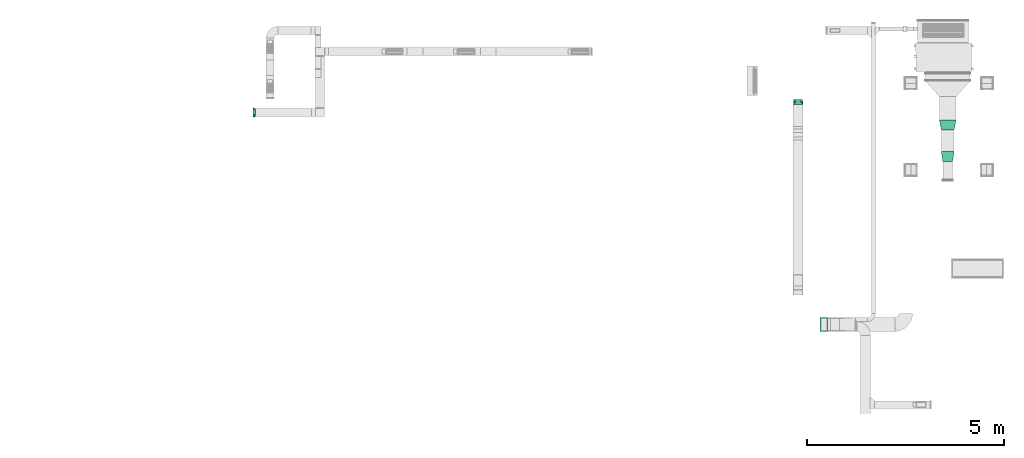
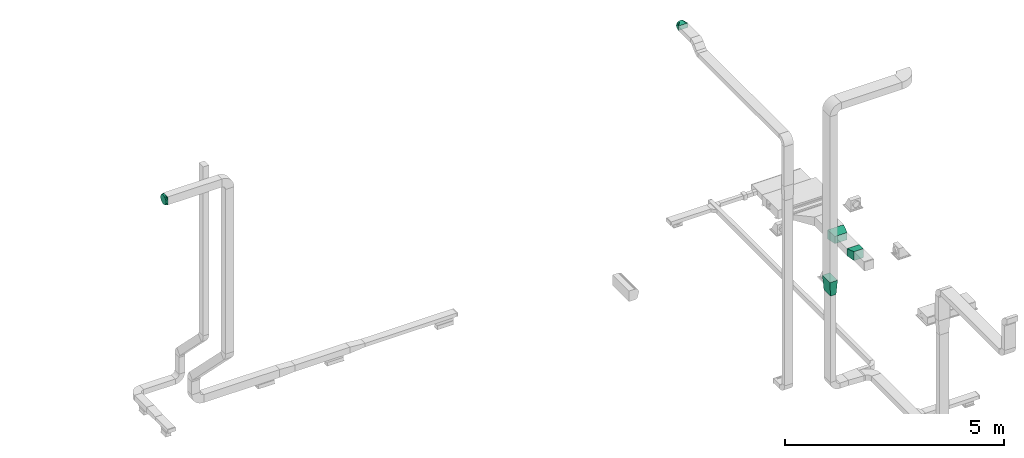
# One storey, part 17 of 22: 5 flow fittings.
"""IFC2X3 building model written with IfcOpenShell, lengths in millimetres."""

from ifc_helpers import new_model, entity, si_unit, converted_unit, derived_unit, direction, frame, origin, place, context, subcontext, project, spatial, faceted_brep, source, transform, mapped, material, type_object, type_shapes, element, save


model = new_model("IFC2X3")

# Units and contexts
model_context = context("Model", 3, precision=0.01, world=origin(), true_north=direction((6.123233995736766e-17, 1.0)))
body_context = subcontext(model_context, "Body", "Model", "MODEL_VIEW")
ifc_project = project(units=[si_unit("LENGTHUNIT", "METRE", prefix="MILLI"), converted_unit("PLANEANGLEUNIT", "DEGREE", entity("IfcPlaneAngleMeasure", 0.017453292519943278), si_unit("PLANEANGLEUNIT", "RADIAN"), dimensions=[0, 0, 0, 0, 0, 0, 0]), si_unit("AREAUNIT", "SQUARE_METRE"), derived_unit("THERMALTRANSMITTANCEUNIT", [(si_unit("MASSUNIT", "GRAM", prefix="KILO"), 1), (si_unit("THERMODYNAMICTEMPERATUREUNIT", "KELVIN"), -1), (si_unit("TIMEUNIT", "SECOND"), -3)])], contexts=[model_context])

# Site, building, storey
site_placement = place(None, origin())
site = spatial("IfcSite", under=ifc_project, at=site_placement, Name="Default", CompositionType="ELEMENT")
building_placement = place(site_placement, origin())
building = spatial("IfcBuilding", under=site, at=building_placement, Name="Praça Pedro II, 1301 - Centro (Sul), Teresina - PI, 64001-100", CompositionType="ELEMENT")
storey_placement = place(building_placement, frame((0.0, 0.0, 320.0)))
storey = spatial("IfcBuildingStorey", under=building, at=storey_placement, Name="TÉRREO +0.32m", CompositionType="ELEMENT", Elevation=319.99999999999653)

# Flow fittings
ifc_material = material(Name="<Unnamed>")
duct_fitting_type_1 = type_object("IfcDuctFittingType", Name="M_Rectangular Transition - L:400 mm (L)", PredefinedType="NOTDEFINED", material=ifc_material)
shared_shape_1 = source(origin(), body_context, "Body", "Brep", [
    faceted_brep([(400.0, -100.0, 175.0), (400.0, -100.0, -175.0), (400.0, 100.0, -175.0), (400.0, 100.0, 175.0), (0.0, -75.0, 150.0), (0.0, 75.0, 150.0), (0.0, 75.0, -150.0), (0.0, -75.0, -150.0)], [[[0, 1, 2, 3]], [[4, 5, 6, 7]], [[4, 7, 1, 0]], [[7, 6, 2, 1]], [[6, 5, 3, 2]], [[5, 4, 0, 3]]]),
])
type_shapes(duct_fitting_type_1, [shared_shape_1])
flow_fitting_1_placement = place(storey_placement, frame((34439.070668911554, -58985.15114948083, 4811.336223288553), z_axis=(0.0, -1.0, 0.0), x_axis=(0.0, 0.0, 1.0)))
element("IfcFlowFitting", 1, at=flow_fitting_1_placement, inside=storey, type_object=duct_fitting_type_1, material=ifc_material, Name="M_Rectangular Transition - L:400 mm (L)", ObjectType="M_Rectangular Transition - L:400 mm (L)", context=body_context, shape_type="MappedRepresentation", body=[
    mapped(shared_shape_1, transform((0.0, 0.0, 0.0), scale=1.0)),
])
duct_fitting_type_2 = type_object("IfcDuctFittingType", Name="M_Transição retangular para oval - Ângulo:45 Graus", PredefinedType="NOTDEFINED", material=ifc_material)
shared_shape_2 = source(origin(), body_context, "Body", "Brep", [
    faceted_brep([(119.50357133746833, -65.83194825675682, -90.60990336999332), (119.50357133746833, -50.22092581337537, -98.56411659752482), (119.50357133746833, -34.60990336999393, -106.51832982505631), (119.50357133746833, -21.364137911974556, -108.61625297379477), (119.50357133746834, -10.682068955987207, -110.30812648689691), (119.50357133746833, -5.341034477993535, -111.15406324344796), (119.50357133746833, 0.0, -112.0), (119.50357133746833, 5.341034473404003, -111.15406324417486), (119.50357133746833, 10.682068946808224, -110.30812648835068), (119.50357133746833, 21.36413789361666, -108.61625297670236), (119.50357133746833, 34.60990336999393, -106.5183298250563), (119.50357133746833, 50.2209258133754, -98.56411659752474), (119.50357133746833, 65.83194825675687, -90.60990336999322), (119.50357133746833, 78.22092581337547, -78.22092581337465), (119.50357133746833, 90.60990336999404, -65.83194825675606), (119.50357133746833, 98.56411659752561, -50.22092581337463), (119.50357133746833, 106.51832982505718, -34.60990336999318), (119.50357133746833, 108.61625297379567, -21.364137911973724), (119.50357133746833, 110.30812648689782, -10.68206895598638), (119.50357133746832, 111.15406324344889, -5.341034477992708), (119.50357133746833, 112.0, 0.0), (119.50357133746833, 111.15406324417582, 5.341034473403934), (119.50357133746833, 110.30812648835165, 10.682068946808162), (119.50357133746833, 108.61625297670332, 21.364137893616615), (119.50357133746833, 106.51832982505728, 34.60990336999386), (119.50357133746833, 98.56411659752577, 50.220925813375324), (119.50357133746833, 90.60990336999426, 65.83194825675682), (119.50357133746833, 78.22092581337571, 78.22092581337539), (119.50357133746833, 65.83194825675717, 90.60990336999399), (119.50357133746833, 50.22092581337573, 98.56411659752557), (119.50357133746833, 34.6099033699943, 106.51832982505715), (119.50357133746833, 21.364137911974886, 108.61625297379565), (119.50357133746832, 10.682068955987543, 110.30812648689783), (119.50357133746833, 5.341034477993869, 111.15406324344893), (119.50357133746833, 0.0, 112.0), (119.50357133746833, -5.34103447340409, 111.1540632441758), (119.50357133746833, -10.682068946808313, 110.30812648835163), (119.50357133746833, -21.364137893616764, 108.61625297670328), (119.50357133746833, -34.60990336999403, 106.51832982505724), (119.50357133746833, -50.2209258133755, 98.5641165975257), (119.50357133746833, -65.83194825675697, 90.60990336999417), (119.50357133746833, -78.22092581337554, 78.22092581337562), (119.50357133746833, -90.60990336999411, 65.83194825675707), (119.50357133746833, -98.56411659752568, 50.220925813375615), (119.50357133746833, -106.51832982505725, 34.60990336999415), (119.50357133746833, -108.61625297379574, 21.3641379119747), (119.50357133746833, -110.3081264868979, 10.682068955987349), (119.50357133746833, -111.15406324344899, 5.341034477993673), (119.50357133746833, -112.0, 0.0), (119.50357133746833, -111.15406324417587, -5.341034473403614), (119.50357133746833, -110.30812648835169, -10.68206894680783), (119.50357133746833, -108.61625297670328, -21.36413789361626), (119.50357133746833, -106.51832982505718, -34.60990336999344), (119.50357133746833, -98.5641165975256, -50.22092581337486), (119.50357133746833, -90.609903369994, -65.83194825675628), (119.50357133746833, -78.2209258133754, -78.22092581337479), (0.0, -125.0, 62.50000000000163), (0.0, 125.0, 62.50000000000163), (0.0, 125.0, -62.50000000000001), (0.0, -125.0, -62.50000000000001), (62.210109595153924, -59.92860830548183, 88.26827111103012), (59.75178535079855, -99.62868787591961, 73.17207702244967), (15.552527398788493, -108.73215207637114, 68.94206777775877), (46.65758219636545, -76.1964562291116, 81.82620333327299), (31.105054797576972, -92.46430415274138, 75.38413555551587), (112.34188861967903, -7.49107603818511, 109.03353388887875), (105.18020590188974, -14.982152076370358, 106.06706777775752), (90.85684046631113, -29.96430415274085, 100.13413555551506), (76.5334750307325, -44.94645622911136, 94.20120333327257), (31.10505385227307, -121.61628773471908, 46.2321525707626), (46.65758077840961, -119.92443160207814, 38.09822885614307), (62.21010770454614, -118.23257546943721, 29.964305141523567), (76.53347361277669, -116.67443160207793, 22.47322885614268), (90.85683952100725, -115.11628773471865, 14.982152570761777), (105.18020542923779, -113.55814386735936, 7.491076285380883), (112.34188838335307, -112.77907193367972, 3.7455381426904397), (15.552526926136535, -123.30814386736, 54.366076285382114), (15.552527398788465, -123.30814381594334, -54.36607603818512), (31.10505479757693, -121.61628763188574, -46.23215207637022), (46.65758219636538, -119.92443144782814, -38.09822811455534), (62.21010959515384, -118.23257526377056, -29.964304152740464), (76.53347503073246, -116.67443144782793, -22.4732281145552), (90.85684046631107, -115.11628763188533, -14.982152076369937), (105.1802059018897, -113.5581438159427, -7.491076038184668), (112.34188861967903, -112.77907190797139, -3.7455380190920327), (59.75178535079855, -104.42207718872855, -68.37868770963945), (31.10505385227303, -92.46430514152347, -75.38413516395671), (46.65758077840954, -76.19645771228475, -81.82620274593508), (62.21010770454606, -59.92861028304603, -88.26827032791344), (76.53347361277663, -44.94645771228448, -94.20120274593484), (90.8568395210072, -29.96430514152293, -100.13413516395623), (105.18020542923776, -14.982152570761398, -106.06706758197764), (112.34188838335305, -7.491076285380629, -109.03353379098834), (15.552526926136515, -108.7321525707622, -68.94206758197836), (15.552527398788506, 108.73215207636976, -68.94206777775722), (31.105054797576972, 92.46430415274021, -75.38413555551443), (46.65758219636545, 76.19645622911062, -81.82620333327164), (62.210109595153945, 59.928608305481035, -88.26827111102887), (76.53347503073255, 44.94645622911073, -94.2012033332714), (90.85684046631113, 29.96430415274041, -100.13413555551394), (105.18020590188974, 14.982152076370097, -106.06706777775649), (112.34188861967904, 7.49107603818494, -109.03353388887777), (59.75178535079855, 99.62868787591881, -73.17207702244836), (31.105053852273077, 121.6162877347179, -46.23215257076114), (46.65758077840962, 119.92443160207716, -38.09822885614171), (62.210107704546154, 118.23257546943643, -29.964305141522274), (76.5334736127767, 116.6744316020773, -22.473228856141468), (90.85683952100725, 115.11628773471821, -14.982152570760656), (105.18020542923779, 113.5581438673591, -7.491076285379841), (112.34188838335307, 112.77907193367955, -3.7455381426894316), (15.552526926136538, 123.30814386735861, -54.366076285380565), (15.552527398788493, 123.30814381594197, 54.366076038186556), (31.105054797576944, 121.61628763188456, 46.2321520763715), (46.657582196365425, 119.92443144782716, 38.098228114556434), (62.21010959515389, 118.23257526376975, 29.964304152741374), (76.5334750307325, 116.67443144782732, 22.47322811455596), (90.85684046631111, 115.11628763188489, 14.982152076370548), (105.18020590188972, 113.55814381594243, 7.491076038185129), (112.34188861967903, 112.77907190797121, 3.7455380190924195), (59.75178535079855, 104.42207718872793, 68.37868770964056), (31.105053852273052, 92.46430514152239, 75.38413516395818), (46.65758077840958, 76.19645771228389, 81.82620274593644), (62.210107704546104, 59.92861028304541, 88.26827032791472), (76.53347361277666, 44.946457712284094, 94.20120274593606), (90.85683952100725, 29.964305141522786, 100.13413516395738), (105.18020542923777, 14.982152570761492, 106.0670675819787), (112.34188838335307, 7.491076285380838, 109.03353379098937), (15.552526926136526, 108.73215257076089, 68.94206758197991)], [[[0, 1, 2, 3, 4, 5, 6, 7, 8, 9, 10, 11, 12, 13, 14, 15, 16, 17, 18, 19, 20, 21, 22, 23, 24, 25, 26, 27, 28, 29, 30, 31, 32, 33, 34, 35, 36, 37, 38, 39, 40, 41, 42, 43, 44, 45, 46, 47, 48, 49, 50, 51, 52, 53, 54, 55]], [[56, 57, 58, 59]], [[60, 39, 38]], [[56, 61, 62]], [[39, 60, 63, 64]], [[65, 66, 67, 68, 60, 38, 37, 36, 35, 34]], [[62, 61, 40]], [[43, 69, 70, 71]], [[64, 40, 39]], [[44, 71, 72, 73, 74, 75, 48, 47, 46, 45]], [[42, 76, 69]], [[71, 44, 43]], [[61, 76, 41]], [[40, 64, 62]], [[76, 42, 41]], [[40, 61, 41]], [[61, 56, 76]], [[69, 43, 42]], [[75, 74, 73, 72, 71, 70, 69, 76, 56, 59, 77, 78, 79, 80, 81, 82, 83, 84, 48]], [[80, 53, 52]], [[59, 85, 77]], [[53, 80, 79, 78]], [[84, 83, 82, 81, 80, 52, 51, 50, 49, 48]], [[77, 85, 54]], [[1, 86, 87, 88]], [[78, 54, 53]], [[2, 88, 89, 90, 91, 92, 6, 5, 4, 3]], [[0, 93, 86]], [[88, 2, 1]], [[85, 93, 55]], [[54, 78, 77]], [[93, 0, 55]], [[54, 85, 55]], [[85, 59, 93]], [[86, 1, 0]], [[92, 91, 90, 89, 88, 87, 86, 93, 59, 58, 94, 95, 96, 97, 98, 99, 100, 101, 6]], [[97, 11, 10]], [[58, 102, 94]], [[11, 97, 96, 95]], [[101, 100, 99, 98, 97, 10, 9, 8, 7, 6]], [[94, 102, 12]], [[15, 103, 104, 105]], [[95, 12, 11]], [[16, 105, 106, 107, 108, 109, 20, 19, 18, 17]], [[14, 110, 103]], [[105, 16, 15]], [[102, 110, 13]], [[12, 95, 94]], [[110, 14, 13]], [[12, 102, 13]], [[102, 58, 110]], [[103, 15, 14]], [[58, 57, 111, 112, 113, 114, 115, 116, 117, 118, 20, 109, 108, 107, 106, 105, 104, 103, 110]], [[114, 25, 24]], [[57, 119, 111]], [[25, 114, 113, 112]], [[118, 117, 116, 115, 114, 24, 23, 22, 21, 20]], [[111, 119, 26]], [[29, 120, 121, 122]], [[112, 26, 25]], [[30, 122, 123, 124, 125, 126, 34, 33, 32, 31]], [[28, 127, 120]], [[122, 30, 29]], [[119, 127, 27]], [[26, 112, 111]], [[127, 28, 27]], [[26, 119, 27]], [[119, 57, 127]], [[120, 29, 28]], [[57, 56, 62, 64, 63, 60, 68, 67, 66, 65, 34, 126, 125, 124, 123, 122, 121, 120, 127]]]),
])
type_shapes(duct_fitting_type_2, [shared_shape_2])
flow_fitting_2_placement = place(storey_placement, frame((33786.88553093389, -53396.46543395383, 9050.0), z_axis=(0.0, 0.0, 1.0), x_axis=(0.0, 1.0, 0.0)))
element("IfcFlowFitting", 2, at=flow_fitting_2_placement, inside=storey, type_object=duct_fitting_type_2, material=ifc_material, Name="M_Transição retangular para oval - Ângulo:45 Graus", ObjectType="M_Transição retangular para oval - Ângulo:45 Graus", context=body_context, shape_type="MappedRepresentation", body=[
    mapped(shared_shape_2, transform((0.0, 0.0, 0.0), scale=1.0)),
])
duct_fitting_type_3 = type_object("IfcDuctFittingType", Name="M_Rectangular Transition - L:250 mm (L)", PredefinedType="NOTDEFINED", material=ifc_material)
shared_shape_3 = source(origin(), body_context, "Body", "Brep", [
    faceted_brep([(250.0, -162.50000000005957, 75.0), (250.0, -162.50000000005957, -125.0), (250.0, 162.49999999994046, -125.0), (250.0, 162.49999999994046, 75.0), (0.0, -212.50000000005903, 125.0), (0.0, 212.499999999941, 125.0), (0.0, 212.499999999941, -125.0), (0.0, -212.50000000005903, -125.0)], [[[0, 1, 2, 3]], [[4, 5, 6, 7]], [[4, 7, 1, 0]], [[7, 6, 2, 1]], [[6, 5, 3, 2]], [[5, 4, 0, 3]]]),
])
type_shapes(duct_fitting_type_3, [shared_shape_3])
flow_fitting_3_placement = place(storey_placement, frame((37584.97586072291, -53793.90385149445, 2243.456747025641), z_axis=(0.0, 0.0, 1.0), x_axis=(0.0, -1.0, 0.0)))
element("IfcFlowFitting", 3, at=flow_fitting_3_placement, inside=storey, type_object=duct_fitting_type_3, material=ifc_material, Name="M_Rectangular Transition - L:250 mm (L)", ObjectType="M_Rectangular Transition - L:250 mm (L)", context=body_context, shape_type="MappedRepresentation", body=[
    mapped(shared_shape_3, transform((0.0, 0.0, 0.0), scale=1.0)),
])
duct_fitting_type_4 = type_object("IfcDuctFittingType", Name="M_Rectangular Transition - L:250 mm (L)", PredefinedType="NOTDEFINED", material=ifc_material)
shared_shape_4 = source(origin(), body_context, "Body", "Brep", [
    faceted_brep([(250.0, -162.50000000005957, 75.0), (250.0, -162.50000000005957, -125.0), (250.0, 162.49999999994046, -125.0), (250.0, 162.49999999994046, 75.0), (0.0, -125.0, 125.0), (0.0, 125.0, 125.0), (0.0, 125.0, -125.0), (0.0, -125.0, -125.0)], [[[0, 1, 2, 3]], [[4, 5, 6, 7]], [[4, 7, 1, 0]], [[7, 6, 2, 1]], [[6, 5, 3, 2]], [[5, 4, 0, 3]]]),
])
type_shapes(duct_fitting_type_4, [shared_shape_4])
flow_fitting_4_placement = place(storey_placement, frame((37584.97586072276, -54848.62028874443, 2243.456747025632), z_axis=(0.0, 0.0, 1.0), x_axis=(0.0, 1.0, 0.0)))
element("IfcFlowFitting", 4, at=flow_fitting_4_placement, inside=storey, type_object=duct_fitting_type_4, material=ifc_material, Name="M_Rectangular Transition - L:250 mm (L)", ObjectType="M_Rectangular Transition - L:250 mm (L)", context=body_context, shape_type="MappedRepresentation", body=[
    mapped(shared_shape_4, transform((0.0, 0.0, 0.0), scale=1.0)),
])
duct_fitting_type_5 = type_object("IfcDuctFittingType", Name="M_Transição retangular para oval - Ângulo:45 Graus", PredefinedType="NOTDEFINED", material=ifc_material)
shared_shape_5 = source(origin(), body_context, "Body", "Brep", [
    faceted_brep([(60.355339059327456, -73.47315653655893, -101.12712429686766), (60.355339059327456, -56.05014041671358, -110.0045944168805), (60.355339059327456, -38.627124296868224, -118.88206453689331), (60.355339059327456, -23.843903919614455, -121.22349662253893), (60.355339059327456, -11.921951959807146, -123.11174831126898), (60.355339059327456, -5.960975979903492, -124.05587415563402), (60.355339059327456, 0.0, -125.0), (60.355339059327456, 5.96097597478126, -124.05587415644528), (60.355339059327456, 11.921951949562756, -123.11174831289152), (60.355339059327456, 23.84390389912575, -121.22349662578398), (60.355339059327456, 38.627124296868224, -118.88206453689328), (60.355339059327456, 56.05014041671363, -110.00459441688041), (60.355339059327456, 73.47315653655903, -101.12712429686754), (60.355339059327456, 87.3001404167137, -87.30014041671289), (60.355339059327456, 101.12712429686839, -73.47315653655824), (60.355339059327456, 110.00459441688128, -56.05014041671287), (60.355339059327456, 118.88206453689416, -38.6271242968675), (60.355339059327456, 121.2234966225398, -23.843903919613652), (60.355339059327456, 123.11174831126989, -11.921951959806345), (60.355339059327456, 124.05587415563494, -5.96097597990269), (60.355339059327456, 125.0, 0.0), (60.355339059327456, 124.05587415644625, 5.960975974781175), (60.355339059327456, 123.1117483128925, 11.921951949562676), (60.355339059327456, 121.22349662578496, 23.843903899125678), (60.355339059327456, 118.8820645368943, 38.62712429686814), (60.355339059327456, 110.00459441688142, 56.05014041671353), (60.355339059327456, 101.12712429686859, 73.47315653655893), (60.355339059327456, 87.30014041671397, 87.30014041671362), (60.355339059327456, 73.47315653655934, 101.12712429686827), (60.355339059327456, 56.05014041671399, 110.00459441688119), (60.355339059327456, 38.62712429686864, 118.88206453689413), (60.355339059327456, 23.843903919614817, 121.22349662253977), (60.355339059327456, 11.921951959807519, 123.1117483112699), (60.355339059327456, 5.96097597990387, 124.05587415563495), (60.355339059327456, 0.0, 125.0), (60.355339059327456, -5.960975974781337, 124.05587415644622), (60.355339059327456, -11.921951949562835, 123.11174831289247), (60.355339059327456, -23.843903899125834, 121.22349662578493), (60.355339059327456, -38.627124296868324, 118.88206453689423), (60.355339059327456, -56.05014041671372, 110.00459441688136), (60.355339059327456, -73.47315653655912, 101.12712429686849), (60.355339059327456, -87.30014041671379, 87.30014041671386), (60.355339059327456, -101.12712429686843, 73.47315653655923), (60.355339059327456, -110.00459441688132, 56.05014041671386), (60.355339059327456, -118.88206453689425, 38.62712429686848), (60.355339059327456, -121.22349662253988, 23.84390391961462), (60.355339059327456, -123.11174831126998, 11.921951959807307), (60.35533905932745, -124.05587415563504, 5.960975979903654), (60.355339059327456, -125.0, 0.0), (60.355339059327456, -124.0558741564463, -5.960975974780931), (60.355339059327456, -123.11174831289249, -11.921951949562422), (60.355339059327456, -121.22349662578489, -23.843903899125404), (60.355339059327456, -118.88206453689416, -38.62712429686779), (60.355339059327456, -110.00459441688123, -56.05014041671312), (60.355339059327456, -101.1271242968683, -73.47315653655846), (60.355339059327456, -87.30014041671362, -87.30014041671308), (0.0, -100.0, 112.50000000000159), (0.0, 100.0, 112.50000000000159), (0.0, 100.0, -112.49999999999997), (0.0, -100.0, -112.49999999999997), (31.41924727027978, -47.94288664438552, 119.00713916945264), (30.177669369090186, -91.43826761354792, 103.03803250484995), (7.8548118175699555, -86.98572166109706, 114.12678479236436), (23.56443545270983, -60.957164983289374, 117.38035437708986), (15.70962363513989, -73.97144332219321, 115.7535695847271), (56.7383275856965, -5.992860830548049, 124.2508923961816), (53.12131611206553, -11.98572166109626, 123.50178479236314), (45.887293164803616, -23.971443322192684, 122.0035695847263), (38.653270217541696, -35.957164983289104, 120.50535437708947), (15.709623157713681, -106.50713897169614, 83.21787462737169), (23.56443473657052, -109.76070845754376, 68.57681194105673), (31.419246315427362, -113.01427794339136, 53.935749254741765), (38.653269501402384, -116.01070845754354, 40.45181194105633), (45.88729268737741, -119.00713897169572, 26.967874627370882), (53.12131587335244, -122.0035694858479, 13.483937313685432), (56.73832746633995, -123.50178474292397, 6.741968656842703), (7.8548115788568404, -103.25356948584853, 97.85893731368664), (7.854811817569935, -103.25356958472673, -97.85893686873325), (15.709623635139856, -106.50713916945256, -83.21787373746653), (23.564435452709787, -109.76070875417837, -68.57681060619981), (31.41924727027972, -113.01427833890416, -53.93574747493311), (38.653270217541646, -116.01070875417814, -40.4518106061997), (45.88729316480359, -119.00713916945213, -26.967873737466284), (53.12131611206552, -122.00356958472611, -13.483936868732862), (56.73832758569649, -123.50178479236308, -6.741968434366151), (30.177669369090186, -96.7880324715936, -97.68826764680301), (15.709623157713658, -73.9714441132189, -115.75356948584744), (23.56443473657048, -60.95716616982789, -117.3803542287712), (31.419246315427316, -47.94288822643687, -119.00713897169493), (38.65326950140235, -35.957166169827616, -120.50535422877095), (45.887292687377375, -23.971444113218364, -122.00356948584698), (53.12131587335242, -11.985722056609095, -123.50178474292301), (56.738327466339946, -5.992861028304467, -124.25089237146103), (7.854811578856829, -86.98572205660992, -114.12678474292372), (7.8548118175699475, 86.9857216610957, -114.12678479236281), (15.70962363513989, 73.97144332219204, -115.75356958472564), (23.56443545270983, 60.957164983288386, -117.3803543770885), (31.419247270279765, 47.94288664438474, -119.00713916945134), (38.65327021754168, 35.95716498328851, -120.50535437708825), (45.887293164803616, 23.971443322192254, -122.00356958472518), (53.12131611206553, 11.985721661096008, -123.50178479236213), (56.738327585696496, 5.992860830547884, -124.25089239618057), (30.177669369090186, 91.43826761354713, -103.03803250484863), (15.709623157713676, 106.50713897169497, -83.21787462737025), (23.564434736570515, 109.76070845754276, -68.57681194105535), (31.41924631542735, 113.01427794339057, -53.9357492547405), (38.65326950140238, 116.01070845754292, -40.45181194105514), (45.88729268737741, 119.00713897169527, -26.96787462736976), (53.12131587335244, 122.00356948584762, -13.483937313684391), (56.738327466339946, 123.50178474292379, -6.741968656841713), (7.854811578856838, 103.25356948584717, -97.85893731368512), (7.8548118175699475, 103.25356958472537, 97.85893686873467), (15.709623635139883, 106.50713916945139, 83.21787373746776), (23.564435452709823, 109.7607087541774, 68.57681060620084), (31.419247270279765, 113.01427833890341, 53.93574747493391), (38.65327021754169, 116.01070875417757, 40.451810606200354), (45.88729316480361, 119.0071391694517, 26.967873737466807), (53.12131611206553, 122.00356958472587, 13.483936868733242), (56.738327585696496, 123.50178479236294, 6.741968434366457), (30.177669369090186, 96.788032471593, 97.68826764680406), (15.709623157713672, 73.97144411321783, 115.75356948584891), (23.56443473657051, 60.95716616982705, 117.38035422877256), (31.419246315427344, 47.94288822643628, 119.00713897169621), (38.65326950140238, 35.95716616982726, 120.50535422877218), (45.8872926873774, 23.97144411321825, 122.00356948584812), (53.12131587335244, 11.985722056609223, 123.50178474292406), (56.738327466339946, 5.992861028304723, 124.25089237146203), (7.854811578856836, 86.9857220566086, 114.12678474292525)], [[[0, 1, 2, 3, 4, 5, 6, 7, 8, 9, 10, 11, 12, 13, 14, 15, 16, 17, 18, 19, 20, 21, 22, 23, 24, 25, 26, 27, 28, 29, 30, 31, 32, 33, 34, 35, 36, 37, 38, 39, 40, 41, 42, 43, 44, 45, 46, 47, 48, 49, 50, 51, 52, 53, 54, 55]], [[56, 57, 58, 59]], [[60, 39, 38]], [[56, 61, 62]], [[39, 60, 63, 64]], [[65, 66, 67, 68, 60, 38, 37, 36, 35, 34]], [[62, 61, 40]], [[43, 69, 70, 71]], [[64, 40, 39]], [[44, 71, 72, 73, 74, 75, 48, 47, 46, 45]], [[42, 76, 69]], [[71, 44, 43]], [[61, 76, 41]], [[40, 64, 62]], [[76, 42, 41]], [[40, 61, 41]], [[61, 56, 76]], [[69, 43, 42]], [[75, 74, 73, 72, 71, 70, 69, 76, 56, 59, 77, 78, 79, 80, 81, 82, 83, 84, 48]], [[80, 53, 52]], [[59, 85, 77]], [[53, 80, 79, 78]], [[84, 83, 82, 81, 80, 52, 51, 50, 49, 48]], [[77, 85, 54]], [[1, 86, 87, 88]], [[78, 54, 53]], [[2, 88, 89, 90, 91, 92, 6, 5, 4, 3]], [[0, 93, 86]], [[88, 2, 1]], [[85, 93, 55]], [[54, 78, 77]], [[93, 0, 55]], [[54, 85, 55]], [[85, 59, 93]], [[86, 1, 0]], [[92, 91, 90, 89, 88, 87, 86, 93, 59, 58, 94, 95, 96, 97, 98, 99, 100, 101, 6]], [[97, 11, 10]], [[58, 102, 94]], [[11, 97, 96, 95]], [[101, 100, 99, 98, 97, 10, 9, 8, 7, 6]], [[94, 102, 12]], [[15, 103, 104, 105]], [[95, 12, 11]], [[16, 105, 106, 107, 108, 109, 20, 19, 18, 17]], [[14, 110, 103]], [[105, 16, 15]], [[102, 110, 13]], [[12, 95, 94]], [[110, 14, 13]], [[12, 102, 13]], [[102, 58, 110]], [[103, 15, 14]], [[58, 57, 111, 112, 113, 114, 115, 116, 117, 118, 20, 109, 108, 107, 106, 105, 104, 103, 110]], [[114, 25, 24]], [[57, 119, 111]], [[25, 114, 113, 112]], [[118, 117, 116, 115, 114, 24, 23, 22, 21, 20]], [[111, 119, 26]], [[29, 120, 121, 122]], [[112, 26, 25]], [[30, 122, 123, 124, 125, 126, 34, 33, 32, 31]], [[28, 127, 120]], [[122, 30, 29]], [[119, 127, 27]], [[26, 112, 111]], [[127, 28, 27]], [[26, 119, 27]], [[119, 57, 127]], [[120, 29, 28]], [[57, 56, 62, 64, 63, 60, 68, 67, 66, 65, 34, 126, 125, 124, 123, 122, 121, 120, 127]]]),
])
type_shapes(duct_fitting_type_5, [shared_shape_5])
flow_fitting_5_placement = place(storey_placement, frame((20010.04140251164, -53604.37227675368, 9200.0), z_axis=(0.0, 0.0, 1.0), x_axis=(-1.0, 0.0, 0.0)))
element("IfcFlowFitting", 5, at=flow_fitting_5_placement, inside=storey, type_object=duct_fitting_type_5, material=ifc_material, Name="M_Transição retangular para oval - Ângulo:45 Graus", ObjectType="M_Transição retangular para oval - Ângulo:45 Graus", context=body_context, shape_type="MappedRepresentation", body=[
    mapped(shared_shape_5, transform((0.0, 0.0, 0.0), scale=1.0)),
])

save(model, "model.ifc")
